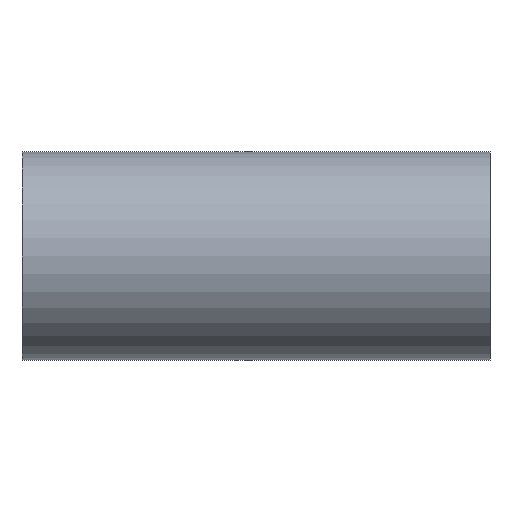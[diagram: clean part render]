
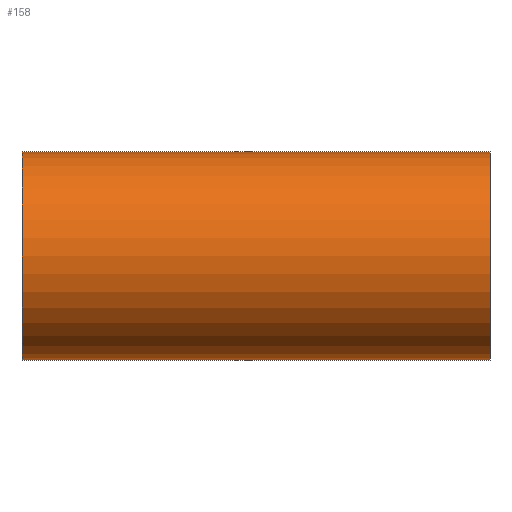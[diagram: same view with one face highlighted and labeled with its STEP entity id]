
A CAD part, front view. The second image highlights one B-rep face of the part: STEP entity #158.
In plain terms, the highlighted cylindrical face has radius 38.1 mm (diameter 76.2 mm), a partial arc.
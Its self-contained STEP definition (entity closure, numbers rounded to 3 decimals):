
#5 = CARTESIAN_POINT ( 'NONE',  ( -85.7, 0., -38.1 ) ) ;
#6 = CARTESIAN_POINT ( 'NONE',  ( 85.7, 0., 38.1 ) ) ;
#13 = CYLINDRICAL_SURFACE ( 'NONE', #146, 38.1 ) ;
#20 = DIRECTION ( 'NONE',  ( 1., 0., 0. ) ) ;
#32 = EDGE_CURVE ( 'NONE', #51, #246, #319, .T. ) ;
#51 = VERTEX_POINT ( 'NONE', #353 ) ;
#54 = ORIENTED_EDGE ( 'NONE', *, *, #32, .T. ) ;
#83 = ORIENTED_EDGE ( 'NONE', *, *, #156, .F. ) ;
#84 = DIRECTION ( 'NONE',  ( -1., 0., 0. ) ) ;
#99 = CARTESIAN_POINT ( 'NONE',  ( -85.7, 0., 38.1 ) ) ;
#108 = DIRECTION ( 'NONE',  ( 0., 0., -1. ) ) ;
#109 = LINE ( 'NONE', #5, #337 ) ;
#135 = VERTEX_POINT ( 'NONE', #99 ) ;
#146 = AXIS2_PLACEMENT_3D ( 'NONE', #430, #157, #108 ) ;
#156 = EDGE_CURVE ( 'NONE', #135, #246, #203, .T. ) ;
#157 = DIRECTION ( 'NONE',  ( 1., 0., 0. ) ) ;
#158 = ADVANCED_FACE ( 'NONE', ( #302 ), #13, .T. ) ;
#159 = VERTEX_POINT ( 'NONE', #321 ) ;
#203 = LINE ( 'NONE', #454, #431 ) ;
#222 = ORIENTED_EDGE ( 'NONE', *, *, #434, .T. ) ;
#246 = VERTEX_POINT ( 'NONE', #6 ) ;
#267 = EDGE_CURVE ( 'NONE', #159, #51, #109, .T. ) ;
#268 = ORIENTED_EDGE ( 'NONE', *, *, #267, .T. ) ;
#275 = CARTESIAN_POINT ( 'NONE',  ( -85.7, 0., 0. ) ) ;
#292 = AXIS2_PLACEMENT_3D ( 'NONE', #307, #84, #323 ) ;
#302 = FACE_OUTER_BOUND ( 'NONE', #382, .T. ) ;
#306 = DIRECTION ( 'NONE',  ( 1., 0., 0. ) ) ;
#307 = CARTESIAN_POINT ( 'NONE',  ( 85.7, 0., 0. ) ) ;
#319 = CIRCLE ( 'NONE', #292, 38.1 ) ;
#321 = CARTESIAN_POINT ( 'NONE',  ( -85.7, 0., -38.1 ) ) ;
#323 = DIRECTION ( 'NONE',  ( 0., 0., -1. ) ) ;
#337 = VECTOR ( 'NONE', #306, 1000. ) ;
#353 = CARTESIAN_POINT ( 'NONE',  ( 85.7, 0., -38.1 ) ) ;
#375 = AXIS2_PLACEMENT_3D ( 'NONE', #275, #20, #420 ) ;
#382 = EDGE_LOOP ( 'NONE', ( #83, #222, #268, #54 ) ) ;
#390 = DIRECTION ( 'NONE',  ( 1., 0., 0. ) ) ;
#420 = DIRECTION ( 'NONE',  ( 0., 0., -1. ) ) ;
#430 = CARTESIAN_POINT ( 'NONE',  ( -85.7, 0., 0. ) ) ;
#431 = VECTOR ( 'NONE', #390, 1000. ) ;
#434 = EDGE_CURVE ( 'NONE', #135, #159, #499, .T. ) ;
#454 = CARTESIAN_POINT ( 'NONE',  ( -85.7, 0., 38.1 ) ) ;
#499 = CIRCLE ( 'NONE', #375, 38.1 ) ;
